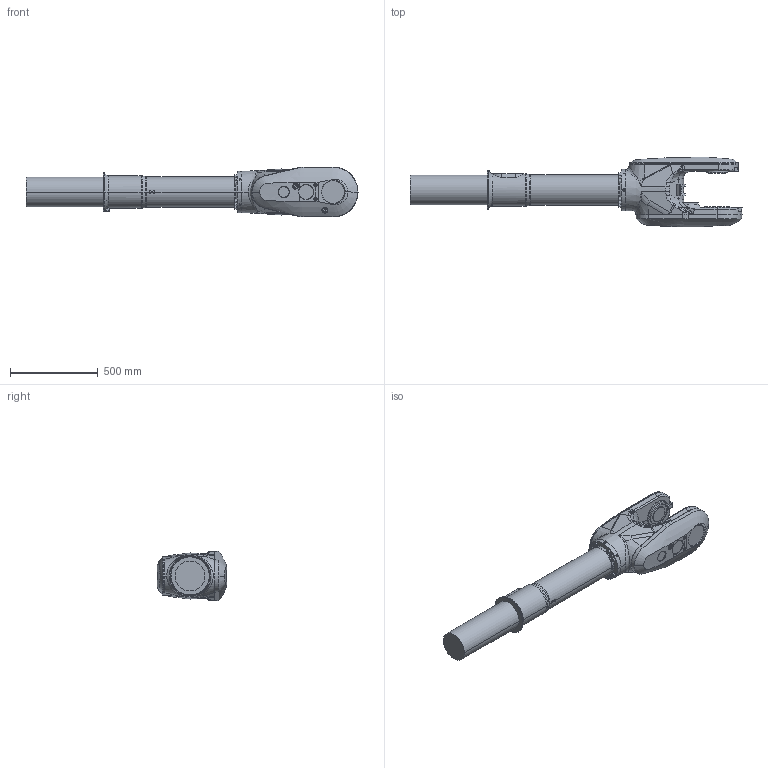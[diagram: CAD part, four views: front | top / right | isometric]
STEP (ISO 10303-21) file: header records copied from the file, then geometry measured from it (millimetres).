
FILE_DESCRIPTION (( 'STEP AP214' ), '1' );
FILE_NAME ('IRB6730S_All-350_OC_00_LINK04_CAD.step', '2026-05-26T10:33:11', ( '' ), ( '' ), 'SwSTEP 2.0', 'SolidWorks 2024', '' );
FILE_SCHEMA (( 'AUTOMOTIVE_DESIGN' ));
Length unit declared in the file: millimetre
Products named in the file (1): IRB6730S_All-350_OC_00_LINK04_CAD
Bounding box: 1887.5 x 395.55 x 284 mm (x, y, z)
Volume: 66582100.7 mm3; surface area: 1601565.7 mm2
Topology: 1 solids, 4 shells, 727 faces, 1803 edges, 1126 vertices
Faces by surface type: plane 297, cylinder 179, cone 122, bspline 96, torus 33
Entity records: 42318 total; most frequent: CARTESIAN_POINT 18327, ORIENTED_EDGE 3558, DIRECTION 2986, EDGE_CURVE 1779, VERTEX_POINT 1126, AXIS2_PLACEMENT_3D 1114, EDGE_LOOP 797, VECTOR 758
